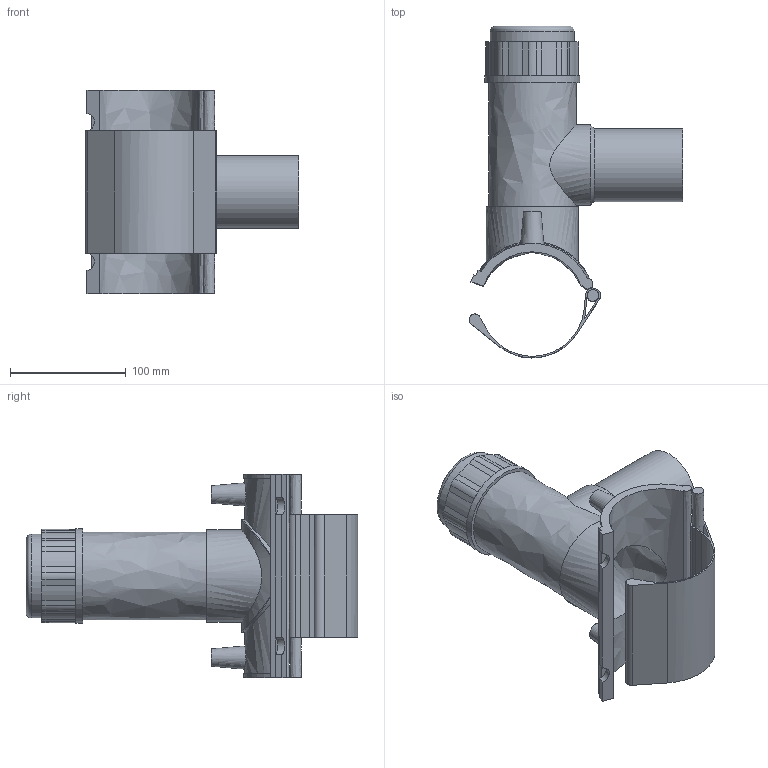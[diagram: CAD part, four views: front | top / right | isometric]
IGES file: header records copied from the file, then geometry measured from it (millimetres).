
Global section: file name: 491304090063; native system: Autodesk Inventor 2019; preprocessor: unknown; author: KIM; date: 20230323.112823; units: millimetre
Bounding box: 184.5 x 286.35 x 176 mm (x, y, z)
Volume: 664701.4 mm3; surface area: 209926.5 mm2
Topology: 2 solids, 2 shells, 106 faces, 278 edges, 190 vertices
Faces by surface type: bspline 106
